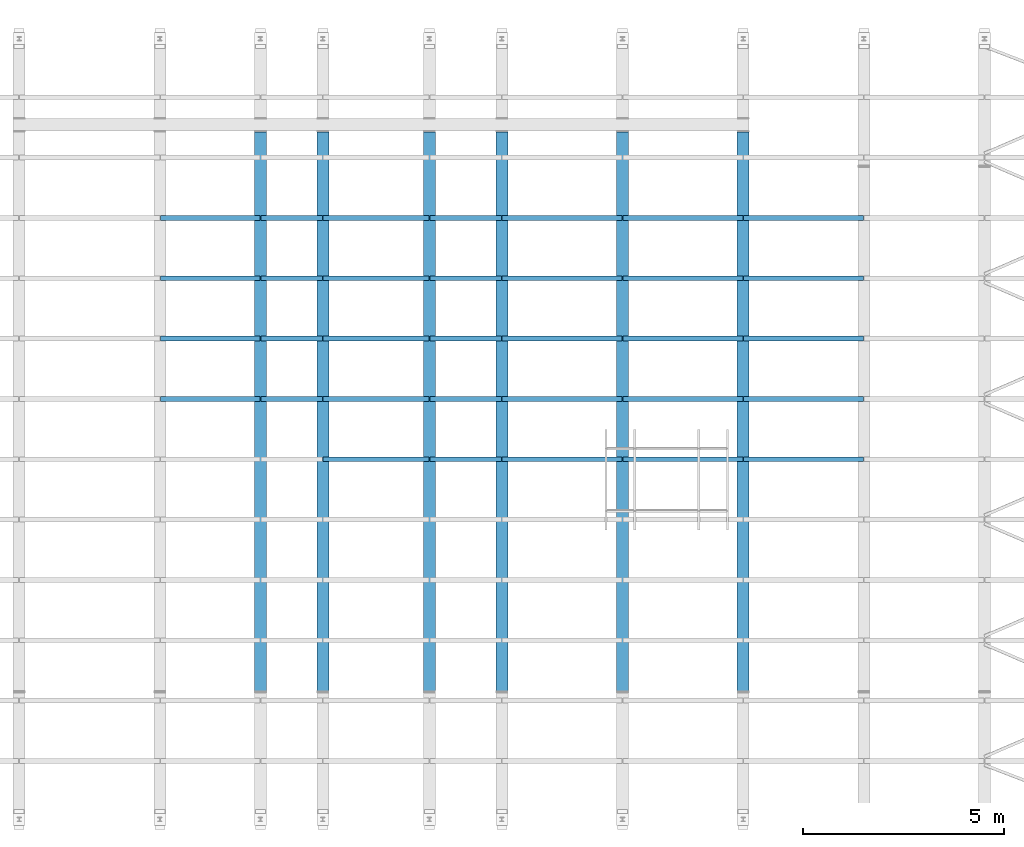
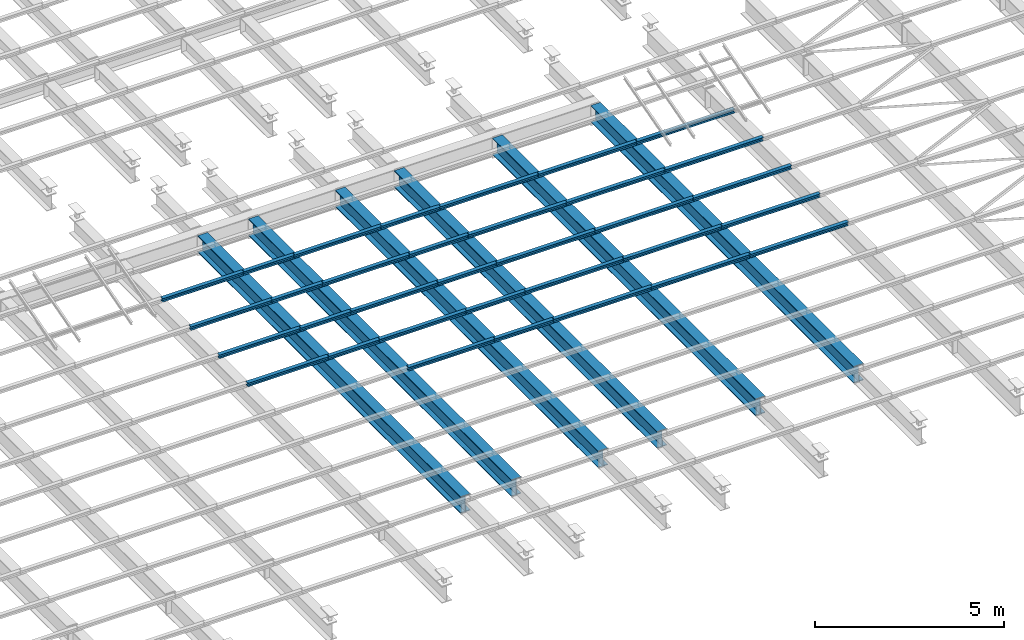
# One storey, part 39 of 139: 39 beams.
"""IFC2X3 building model written with IfcOpenShell, lengths in metres."""

from ifc_helpers import new_model, entity, si_unit, converted_unit, derived_unit, frame, origin, place, context, subcontext, project, spatial, polyline, outline, extrude, material, element, save


model = new_model("IFC2X3")

# Units and contexts
model_context = context("Model", 3, precision=1e-05, world=origin())
body_context = subcontext(model_context, "Body", "Model", "MODEL_VIEW")
ifc_project = project(units=[si_unit("LENGTHUNIT", "METRE"), si_unit("AREAUNIT", "SQUARE_METRE"), si_unit("VOLUMEUNIT", "CUBIC_METRE"), si_unit("MASSUNIT", "GRAM", prefix="KILO"), converted_unit("PLANEANGLEUNIT", "DEGREE", entity("IfcPlaneAngleMeasure", 0.0174532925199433), si_unit("PLANEANGLEUNIT", "RADIAN"), dimensions=[0, 0, 0, 0, 0, 0, 0]), derived_unit("THERMALTRANSMITTANCEUNIT", [(si_unit("POWERUNIT", "WATT"), 1), (si_unit("THERMODYNAMICTEMPERATUREUNIT", "KELVIN"), -1), (si_unit("LENGTHUNIT", "METRE"), -2)]), derived_unit("VOLUMETRICFLOWRATEUNIT", [(si_unit("LENGTHUNIT", "METRE"), 3), (converted_unit("TIMEUNIT", "hour", entity("IfcTimeMeasure", 3600.0), si_unit("TIMEUNIT", "SECOND"), dimensions=[0, 0, 1, 0, 0, 0, 0]), -1), (si_unit("LENGTHUNIT", "METRE"), -1)])], contexts=[model_context])

# Site, building, storey
site_placement = place(None, origin())
site = spatial("IfcSite", under=ifc_project, at=site_placement, Name="TWP_Speiseverteilzentrum SBW VZ II", CompositionType="ELEMENT")
building_placement = place(site_placement, origin())
building = spatial("IfcBuilding", under=site, at=building_placement, Name="Speiseverteilzentrum SBW VZ II", CompositionType="ELEMENT")
storey_placement = place(building_placement, frame((0.0, 0.0, 7.1307)))
storey = spatial("IfcBuildingStorey", under=building, at=storey_placement, Name="Wartung_FFB", CompositionType="ELEMENT", Elevation=7.1307)

# Beams
ifc_material_1 = material(Name="S235")
beam_1_placement = place(storey_placement, frame((28.0500000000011, 27.7849286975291, -0.46), z_axis=(0.0, 0.0, 1.0), x_axis=(-1.0, 0.0, 0.0)))
element("IfcBeam", 1, at=beam_1_placement, inside=storey, material=ifc_material_1, Name="Stahlträger", context=body_context, shape_type="SweptSolid", body=[
    extrude(outline(polyline([(-0.15, 0.27), (-0.15, 0.246), (-0.0062499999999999, 0.246), (-0.00624999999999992, -0.246), (-0.15, -0.246), (-0.15, -0.27), (0.15, -0.27), (0.15, -0.246), (0.00625000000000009, -0.246), (0.00625000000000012, 0.246), (0.15, 0.246), (0.15, 0.27), (-0.15, 0.27)])), frame((0.0, 0.0, 0.0), z_axis=(0.0, 1.0, 0.0), x_axis=(-1.0, 0.0, 0.0)), (0.0, 0.0, 1.0), 13.8968544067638),
])
ifc_material_2 = material(Name="S235")
beam_2_placement = place(storey_placement, frame((34.0500000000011, 27.7849286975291, -0.46), z_axis=(0.0, 0.0, 1.0), x_axis=(-1.0, 0.0, 0.0)))
element("IfcBeam", 2, at=beam_2_placement, inside=storey, material=ifc_material_2, Name="Stahlträger", context=body_context, shape_type="SweptSolid", body=[
    extrude(outline(polyline([(-0.15, 0.27), (-0.15, 0.246), (-0.0062499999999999, 0.246), (-0.00624999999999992, -0.246), (-0.15, -0.246), (-0.15, -0.27), (0.15, -0.27), (0.15, -0.246), (0.00625000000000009, -0.246), (0.00625000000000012, 0.246), (0.15, 0.246), (0.15, 0.27), (-0.15, 0.27)])), frame((0.0, 0.0, 0.0), z_axis=(0.0, 1.0, 0.0), x_axis=(-1.0, 0.0, 0.0)), (0.0, 0.0, 1.0), 13.8968544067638),
])
ifc_material_3 = material(Name="S235")
beam_3_placement = place(storey_placement, frame((32.2500000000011, 27.7849286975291, -0.46), z_axis=(0.0, 0.0, 1.0), x_axis=(-1.0, 0.0, 0.0)))
element("IfcBeam", 3, at=beam_3_placement, inside=storey, material=ifc_material_3, Name="Stahlträger", context=body_context, shape_type="SweptSolid", body=[
    extrude(outline(polyline([(-0.15, 0.27), (-0.15, 0.246), (-0.0062499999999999, 0.246), (-0.00624999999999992, -0.246), (-0.15, -0.246), (-0.15, -0.27), (0.15, -0.27), (0.15, -0.246), (0.00625000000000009, -0.246), (0.00625000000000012, 0.246), (0.15, 0.246), (0.15, 0.27), (-0.15, 0.27)])), frame((0.0, 0.0, 0.0), z_axis=(0.0, 1.0, 0.0), x_axis=(-1.0, 0.0, 0.0)), (0.0, 0.0, 1.0), 13.8968544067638),
])
ifc_material_4 = material(Name="S235")
beam_4_placement = place(storey_placement, frame((29.6000000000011, 27.7849286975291, -0.46), z_axis=(0.0, 0.0, 1.0), x_axis=(-1.0, 0.0, 0.0)))
element("IfcBeam", 4, at=beam_4_placement, inside=storey, material=ifc_material_4, Name="Stahlträger", context=body_context, shape_type="SweptSolid", body=[
    extrude(outline(polyline([(-0.15, 0.27), (-0.15, 0.246), (-0.0062499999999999, 0.246), (-0.00624999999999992, -0.246), (-0.15, -0.246), (-0.15, -0.27), (0.15, -0.27), (0.15, -0.246), (0.00625000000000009, -0.246), (0.00625000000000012, 0.246), (0.15, 0.246), (0.15, 0.27), (-0.15, 0.27)])), frame((0.0, 0.0, 0.0), z_axis=(0.0, 1.0, 0.0), x_axis=(-1.0, 0.0, 0.0)), (0.0, 0.0, 1.0), 13.8968544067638),
])
ifc_material_5 = material(Name="S235")
beam_5_placement = place(storey_placement, frame((37.0500000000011, 27.7849286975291, -0.46), z_axis=(0.0, 0.0, 1.0), x_axis=(-1.0, 0.0, 0.0)))
element("IfcBeam", 5, at=beam_5_placement, inside=storey, material=ifc_material_5, Name="Stahlträger", context=body_context, shape_type="SweptSolid", body=[
    extrude(outline(polyline([(-0.15, 0.27), (-0.15, 0.246), (-0.0062499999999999, 0.246), (-0.00624999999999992, -0.246), (-0.15, -0.246), (-0.15, -0.27), (0.15, -0.27), (0.15, -0.246), (0.00625000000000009, -0.246), (0.00625000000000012, 0.246), (0.15, 0.246), (0.15, 0.27), (-0.15, 0.27)])), frame((0.0, 0.0, 0.0), z_axis=(0.0, 1.0, 0.0), x_axis=(-1.0, 0.0, 0.0)), (0.0, 0.0, 1.0), 13.8968544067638),
])
ifc_material_6 = material(Name="S235")
beam_6_placement = place(storey_placement, frame((40.0500000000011, 27.7849286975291, -0.46), z_axis=(0.0, 0.0, 1.0), x_axis=(-1.0, 0.0, 0.0)))
element("IfcBeam", 6, at=beam_6_placement, inside=storey, material=ifc_material_6, Name="Stahlträger", context=body_context, shape_type="SweptSolid", body=[
    extrude(outline(polyline([(-0.15, 0.27), (-0.15, 0.246), (-0.0062499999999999, 0.246), (-0.00624999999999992, -0.246), (-0.15, -0.246), (-0.15, -0.27), (0.15, -0.27), (0.15, -0.246), (0.00625000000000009, -0.246), (0.00625000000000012, 0.246), (0.15, 0.246), (0.15, 0.27), (-0.15, 0.27)])), frame((0.0, 0.0, 0.0), z_axis=(0.0, 1.0, 0.0), x_axis=(-1.0, 0.0, 0.0)), (0.0, 0.0, 1.0), 13.8968544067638),
])
ifc_material_7 = material(Name="S235")
beam_7_placement = place(storey_placement, frame((34.0600000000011, 25.6450742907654, -0.133), z_axis=(0.0, 0.0, 1.0), x_axis=(0.0, -1.0, 0.0)))
element("IfcBeam", 7, at=beam_7_placement, inside=storey, material=ifc_material_7, Name="Nebenträger", context=body_context, shape_type="SweptSolid", body=[
    extrude(outline(polyline([(-0.06, 0.0570000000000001), (-0.06, 0.0490000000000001), (-0.00249999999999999, 0.0490000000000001), (-0.0025, -0.0489999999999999), (-0.06, -0.0489999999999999), (-0.06, -0.0569999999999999), (0.06, -0.0569999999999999), (0.06, -0.0489999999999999), (0.0025, -0.0489999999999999), (0.00250000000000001, 0.0490000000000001), (0.06, 0.0490000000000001), (0.06, 0.0570000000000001), (-0.06, 0.0570000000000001)])), frame((0.0, 0.0, 0.0), z_axis=(0.0, 1.0, 0.0), x_axis=(-1.0, 0.0, 0.0)), (0.0, 0.0, 1.0), 2.98),
])
ifc_material_8 = material(Name="S235")
beam_8_placement = place(storey_placement, frame((37.0600000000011, 25.6450742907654, -0.133), z_axis=(0.0, 0.0, 1.0), x_axis=(0.0, -1.0, 0.0)))
element("IfcBeam", 8, at=beam_8_placement, inside=storey, material=ifc_material_8, Name="Nebenträger", context=body_context, shape_type="SweptSolid", body=[
    extrude(outline(polyline([(-0.06, 0.0570000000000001), (-0.06, 0.0490000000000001), (-0.00249999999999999, 0.0490000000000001), (-0.0025, -0.0489999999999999), (-0.06, -0.0489999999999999), (-0.06, -0.0569999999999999), (0.06, -0.0569999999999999), (0.06, -0.0489999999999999), (0.0025, -0.0489999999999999), (0.00250000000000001, 0.0490000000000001), (0.06, 0.0490000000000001), (0.06, 0.0570000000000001), (-0.06, 0.0570000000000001)])), frame((0.0, 0.0, 0.0), z_axis=(0.0, 1.0, 0.0), x_axis=(-1.0, 0.0, 0.0)), (0.0, 0.0, 1.0), 2.98),
])
ifc_material_9 = material(Name="S235")
beam_9_placement = place(storey_placement, frame((40.0600000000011, 25.6450742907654, -0.133), z_axis=(0.0, 0.0, 1.0), x_axis=(0.0, -1.0, 0.0)))
element("IfcBeam", 9, at=beam_9_placement, inside=storey, material=ifc_material_9, Name="Nebenträger", context=body_context, shape_type="SweptSolid", body=[
    extrude(outline(polyline([(-0.06, 0.0570000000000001), (-0.06, 0.0490000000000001), (-0.00249999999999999, 0.0490000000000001), (-0.0025, -0.0489999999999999), (-0.06, -0.0489999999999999), (-0.06, -0.0569999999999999), (0.06, -0.0569999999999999), (0.06, -0.0489999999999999), (0.0025, -0.0489999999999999), (0.00250000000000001, 0.0490000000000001), (0.06, 0.0490000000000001), (0.06, 0.0570000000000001), (-0.06, 0.0570000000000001)])), frame((0.0, 0.0, 0.0), z_axis=(0.0, 1.0, 0.0), x_axis=(-1.0, 0.0, 0.0)), (0.0, 0.0, 1.0), 2.98),
])
ifc_material_10 = material(Name="S235")
beam_10_placement = place(storey_placement, frame((34.0600000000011, 24.1450742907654, -0.133), z_axis=(0.0, 0.0, 1.0), x_axis=(0.0, -1.0, 0.0)))
element("IfcBeam", 10, at=beam_10_placement, inside=storey, material=ifc_material_10, Name="Nebenträger", context=body_context, shape_type="SweptSolid", body=[
    extrude(outline(polyline([(-0.06, 0.0570000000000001), (-0.06, 0.0490000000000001), (-0.00249999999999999, 0.0490000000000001), (-0.0025, -0.0489999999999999), (-0.06, -0.0489999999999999), (-0.06, -0.0569999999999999), (0.06, -0.0569999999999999), (0.06, -0.0489999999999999), (0.0025, -0.0489999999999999), (0.00250000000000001, 0.0490000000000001), (0.06, 0.0490000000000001), (0.06, 0.0570000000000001), (-0.06, 0.0570000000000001)])), frame((0.0, 0.0, 0.0), z_axis=(0.0, 1.0, 0.0), x_axis=(-1.0, 0.0, 0.0)), (0.0, 0.0, 1.0), 2.98),
])
ifc_material_11 = material(Name="S235")
beam_11_placement = place(storey_placement, frame((37.0600000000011, 24.1450742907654, -0.133), z_axis=(0.0, 0.0, 1.0), x_axis=(0.0, -1.0, 0.0)))
element("IfcBeam", 11, at=beam_11_placement, inside=storey, material=ifc_material_11, Name="Nebenträger", context=body_context, shape_type="SweptSolid", body=[
    extrude(outline(polyline([(-0.06, 0.0570000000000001), (-0.06, 0.0490000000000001), (-0.00249999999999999, 0.0490000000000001), (-0.0025, -0.0489999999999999), (-0.06, -0.0489999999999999), (-0.06, -0.0569999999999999), (0.06, -0.0569999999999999), (0.06, -0.0489999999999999), (0.0025, -0.0489999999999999), (0.00250000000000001, 0.0490000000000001), (0.06, 0.0490000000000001), (0.06, 0.0570000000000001), (-0.06, 0.0570000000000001)])), frame((0.0, 0.0, 0.0), z_axis=(0.0, 1.0, 0.0), x_axis=(-1.0, 0.0, 0.0)), (0.0, 0.0, 1.0), 2.98),
])
ifc_material_12 = material(Name="S235")
beam_12_placement = place(storey_placement, frame((40.0600000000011, 24.1450742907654, -0.133), z_axis=(0.0, 0.0, 1.0), x_axis=(0.0, -1.0, 0.0)))
element("IfcBeam", 12, at=beam_12_placement, inside=storey, material=ifc_material_12, Name="Nebenträger", context=body_context, shape_type="SweptSolid", body=[
    extrude(outline(polyline([(-0.06, 0.0570000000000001), (-0.06, 0.0490000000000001), (-0.00249999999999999, 0.0490000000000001), (-0.0025, -0.0489999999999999), (-0.06, -0.0489999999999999), (-0.06, -0.0569999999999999), (0.06, -0.0569999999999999), (0.06, -0.0489999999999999), (0.0025, -0.0489999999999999), (0.00250000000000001, 0.0490000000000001), (0.06, 0.0490000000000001), (0.06, 0.0570000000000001), (-0.06, 0.0570000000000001)])), frame((0.0, 0.0, 0.0), z_axis=(0.0, 1.0, 0.0), x_axis=(-1.0, 0.0, 0.0)), (0.0, 0.0, 1.0), 2.98),
])
ifc_material_13 = material(Name="S235")
beam_13_placement = place(storey_placement, frame((34.0600000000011, 22.6450742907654, -0.133), z_axis=(0.0, 0.0, 1.0), x_axis=(0.0, -1.0, 0.0)))
element("IfcBeam", 13, at=beam_13_placement, inside=storey, material=ifc_material_13, Name="Nebenträger", context=body_context, shape_type="SweptSolid", body=[
    extrude(outline(polyline([(-0.06, 0.0570000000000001), (-0.06, 0.0490000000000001), (-0.00249999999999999, 0.0490000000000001), (-0.0025, -0.0489999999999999), (-0.06, -0.0489999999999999), (-0.06, -0.0569999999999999), (0.06, -0.0569999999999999), (0.06, -0.0489999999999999), (0.0025, -0.0489999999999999), (0.00250000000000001, 0.0490000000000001), (0.06, 0.0490000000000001), (0.06, 0.0570000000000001), (-0.06, 0.0570000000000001)])), frame((0.0, 0.0, 0.0), z_axis=(0.0, 1.0, 0.0), x_axis=(-1.0, 0.0, 0.0)), (0.0, 0.0, 1.0), 2.98),
])
ifc_material_14 = material(Name="S235")
beam_14_placement = place(storey_placement, frame((37.0600000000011, 22.6450742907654, -0.133), z_axis=(0.0, 0.0, 1.0), x_axis=(0.0, -1.0, 0.0)))
element("IfcBeam", 14, at=beam_14_placement, inside=storey, material=ifc_material_14, Name="Nebenträger", context=body_context, shape_type="SweptSolid", body=[
    extrude(outline(polyline([(-0.06, 0.0570000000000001), (-0.06, 0.0490000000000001), (-0.00249999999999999, 0.0490000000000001), (-0.0025, -0.0489999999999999), (-0.06, -0.0489999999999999), (-0.06, -0.0569999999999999), (0.06, -0.0569999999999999), (0.06, -0.0489999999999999), (0.0025, -0.0489999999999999), (0.00250000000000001, 0.0490000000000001), (0.06, 0.0490000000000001), (0.06, 0.0570000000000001), (-0.06, 0.0570000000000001)])), frame((0.0, 0.0, 0.0), z_axis=(0.0, 1.0, 0.0), x_axis=(-1.0, 0.0, 0.0)), (0.0, 0.0, 1.0), 2.98),
])
ifc_material_15 = material(Name="S235")
beam_15_placement = place(storey_placement, frame((40.0600000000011, 22.6450742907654, -0.133), z_axis=(0.0, 0.0, 1.0), x_axis=(0.0, -1.0, 0.0)))
element("IfcBeam", 15, at=beam_15_placement, inside=storey, material=ifc_material_15, Name="Nebenträger", context=body_context, shape_type="SweptSolid", body=[
    extrude(outline(polyline([(-0.06, 0.0570000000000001), (-0.06, 0.0490000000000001), (-0.00249999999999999, 0.0490000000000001), (-0.0025, -0.0489999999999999), (-0.06, -0.0489999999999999), (-0.06, -0.0569999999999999), (0.06, -0.0569999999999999), (0.06, -0.0489999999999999), (0.0025, -0.0489999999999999), (0.00250000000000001, 0.0490000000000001), (0.06, 0.0490000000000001), (0.06, 0.0570000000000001), (-0.06, 0.0570000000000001)])), frame((0.0, 0.0, 0.0), z_axis=(0.0, 1.0, 0.0), x_axis=(-1.0, 0.0, 0.0)), (0.0, 0.0, 1.0), 2.98),
])
ifc_material_16 = material(Name="S235")
beam_16_placement = place(storey_placement, frame((34.0600000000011, 21.1450742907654, -0.133), z_axis=(0.0, 0.0, 1.0), x_axis=(0.0, -1.0, 0.0)))
element("IfcBeam", 16, at=beam_16_placement, inside=storey, material=ifc_material_16, Name="Nebenträger", context=body_context, shape_type="SweptSolid", body=[
    extrude(outline(polyline([(-0.06, 0.0570000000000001), (-0.06, 0.0490000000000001), (-0.00249999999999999, 0.0490000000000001), (-0.0025, -0.0489999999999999), (-0.06, -0.0489999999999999), (-0.06, -0.0569999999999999), (0.06, -0.0569999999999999), (0.06, -0.0489999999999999), (0.0025, -0.0489999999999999), (0.00250000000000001, 0.0490000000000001), (0.06, 0.0490000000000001), (0.06, 0.0570000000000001), (-0.06, 0.0570000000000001)])), frame((0.0, 0.0, 0.0), z_axis=(0.0, 1.0, 0.0), x_axis=(-1.0, 0.0, 0.0)), (0.0, 0.0, 1.0), 2.98),
])
ifc_material_17 = material(Name="S235")
beam_17_placement = place(storey_placement, frame((37.0600000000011, 21.1450742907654, -0.133), z_axis=(0.0, 0.0, 1.0), x_axis=(0.0, -1.0, 0.0)))
element("IfcBeam", 17, at=beam_17_placement, inside=storey, material=ifc_material_17, Name="Nebenträger", context=body_context, shape_type="SweptSolid", body=[
    extrude(outline(polyline([(-0.06, 0.0570000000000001), (-0.06, 0.0490000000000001), (-0.00249999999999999, 0.0490000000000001), (-0.0025, -0.0489999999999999), (-0.06, -0.0489999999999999), (-0.06, -0.0569999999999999), (0.06, -0.0569999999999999), (0.06, -0.0489999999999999), (0.0025, -0.0489999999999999), (0.00250000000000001, 0.0490000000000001), (0.06, 0.0490000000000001), (0.06, 0.0570000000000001), (-0.06, 0.0570000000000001)])), frame((0.0, 0.0, 0.0), z_axis=(0.0, 1.0, 0.0), x_axis=(-1.0, 0.0, 0.0)), (0.0, 0.0, 1.0), 2.98),
])
ifc_material_18 = material(Name="S235")
beam_18_placement = place(storey_placement, frame((40.0600000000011, 21.1450742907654, -0.133), z_axis=(0.0, 0.0, 1.0), x_axis=(0.0, -1.0, 0.0)))
element("IfcBeam", 18, at=beam_18_placement, inside=storey, material=ifc_material_18, Name="Nebenträger", context=body_context, shape_type="SweptSolid", body=[
    extrude(outline(polyline([(-0.06, 0.0570000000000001), (-0.06, 0.0490000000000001), (-0.00249999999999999, 0.0490000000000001), (-0.0025, -0.0489999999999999), (-0.06, -0.0489999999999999), (-0.06, -0.0569999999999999), (0.06, -0.0569999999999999), (0.06, -0.0489999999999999), (0.0025, -0.0489999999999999), (0.00250000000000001, 0.0490000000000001), (0.06, 0.0490000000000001), (0.06, 0.0570000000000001), (-0.06, 0.0570000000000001)])), frame((0.0, 0.0, 0.0), z_axis=(0.0, 1.0, 0.0), x_axis=(-1.0, 0.0, 0.0)), (0.0, 0.0, 1.0), 2.98),
])
ifc_material_19 = material(Name="S235")
beam_19_placement = place(storey_placement, frame((34.0600000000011, 19.6450742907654, -0.133), z_axis=(0.0, 0.0, 1.0), x_axis=(0.0, -1.0, 0.0)))
element("IfcBeam", 19, at=beam_19_placement, inside=storey, material=ifc_material_19, Name="Nebenträger", context=body_context, shape_type="SweptSolid", body=[
    extrude(outline(polyline([(-0.06, 0.0570000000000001), (-0.06, 0.0490000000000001), (-0.00249999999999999, 0.0490000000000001), (-0.0025, -0.0489999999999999), (-0.06, -0.0489999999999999), (-0.06, -0.0569999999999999), (0.06, -0.0569999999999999), (0.06, -0.0489999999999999), (0.0025, -0.0489999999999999), (0.00250000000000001, 0.0490000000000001), (0.06, 0.0490000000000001), (0.06, 0.0570000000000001), (-0.06, 0.0570000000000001)])), frame((0.0, 0.0, 0.0), z_axis=(0.0, 1.0, 0.0), x_axis=(-1.0, 0.0, 0.0)), (0.0, 0.0, 1.0), 2.98),
])
ifc_material_20 = material(Name="S235")
beam_20_placement = place(storey_placement, frame((37.0600000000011, 19.6450742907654, -0.133), z_axis=(0.0, 0.0, 1.0), x_axis=(0.0, -1.0, 0.0)))
element("IfcBeam", 20, at=beam_20_placement, inside=storey, material=ifc_material_20, Name="Nebenträger", context=body_context, shape_type="SweptSolid", body=[
    extrude(outline(polyline([(-0.06, 0.0570000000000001), (-0.06, 0.0490000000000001), (-0.00249999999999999, 0.0490000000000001), (-0.0025, -0.0489999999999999), (-0.06, -0.0489999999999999), (-0.06, -0.0569999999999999), (0.06, -0.0569999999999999), (0.06, -0.0489999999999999), (0.0025, -0.0489999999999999), (0.00250000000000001, 0.0490000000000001), (0.06, 0.0490000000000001), (0.06, 0.0570000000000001), (-0.06, 0.0570000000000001)])), frame((0.0, 0.0, 0.0), z_axis=(0.0, 1.0, 0.0), x_axis=(-1.0, 0.0, 0.0)), (0.0, 0.0, 1.0), 2.98),
])
ifc_material_21 = material(Name="S235")
beam_21_placement = place(storey_placement, frame((40.0600000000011, 19.6450742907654, -0.133), z_axis=(0.0, 0.0, 1.0), x_axis=(0.0, -1.0, 0.0)))
element("IfcBeam", 21, at=beam_21_placement, inside=storey, material=ifc_material_21, Name="Nebenträger", context=body_context, shape_type="SweptSolid", body=[
    extrude(outline(polyline([(-0.06, 0.0570000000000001), (-0.06, 0.0490000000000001), (-0.00249999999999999, 0.0490000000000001), (-0.0025, -0.0489999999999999), (-0.06, -0.0489999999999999), (-0.06, -0.0569999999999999), (0.06, -0.0569999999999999), (0.06, -0.0489999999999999), (0.0025, -0.0489999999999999), (0.00250000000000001, 0.0490000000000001), (0.06, 0.0490000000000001), (0.06, 0.0570000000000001), (-0.06, 0.0570000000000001)])), frame((0.0, 0.0, 0.0), z_axis=(0.0, 1.0, 0.0), x_axis=(-1.0, 0.0, 0.0)), (0.0, 0.0, 1.0), 2.98),
])
ifc_material_22 = material(Name="S235")
beam_22_placement = place(storey_placement, frame((25.5662500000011, 25.6450742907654, -0.133), z_axis=(0.0, 0.0, 1.0), x_axis=(0.0, -1.0, 0.0)))
element("IfcBeam", 22, at=beam_22_placement, inside=storey, material=ifc_material_22, Name="Nebenträger", context=body_context, shape_type="SweptSolid", body=[
    extrude(outline(polyline([(-0.06, 0.0570000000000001), (-0.06, 0.0490000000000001), (-0.00249999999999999, 0.0490000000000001), (-0.0025, -0.0489999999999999), (-0.06, -0.0489999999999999), (-0.06, -0.0569999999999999), (0.06, -0.0569999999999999), (0.06, -0.0489999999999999), (0.0025, -0.0489999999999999), (0.00250000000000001, 0.0490000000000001), (0.06, 0.0490000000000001), (0.06, 0.0570000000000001), (-0.06, 0.0570000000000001)])), frame((0.0, 0.0, 0.0), z_axis=(0.0, 1.0, 0.0), x_axis=(-1.0, 0.0, 0.0)), (0.0, 0.0, 1.0), 2.47375),
])
ifc_material_23 = material(Name="S235")
beam_23_placement = place(storey_placement, frame((25.5662500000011, 24.1450742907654, -0.133), z_axis=(0.0, 0.0, 1.0), x_axis=(0.0, -1.0, 0.0)))
element("IfcBeam", 23, at=beam_23_placement, inside=storey, material=ifc_material_23, Name="Nebenträger", context=body_context, shape_type="SweptSolid", body=[
    extrude(outline(polyline([(-0.06, 0.0570000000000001), (-0.06, 0.0490000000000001), (-0.00249999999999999, 0.0490000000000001), (-0.0025, -0.0489999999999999), (-0.06, -0.0489999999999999), (-0.06, -0.0569999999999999), (0.06, -0.0569999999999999), (0.06, -0.0489999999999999), (0.0025, -0.0489999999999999), (0.00250000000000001, 0.0490000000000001), (0.06, 0.0490000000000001), (0.06, 0.0570000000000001), (-0.06, 0.0570000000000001)])), frame((0.0, 0.0, 0.0), z_axis=(0.0, 1.0, 0.0), x_axis=(-1.0, 0.0, 0.0)), (0.0, 0.0, 1.0), 2.47375),
])
ifc_material_24 = material(Name="S235")
beam_24_placement = place(storey_placement, frame((25.5662500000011, 22.6450742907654, -0.133), z_axis=(0.0, 0.0, 1.0), x_axis=(0.0, -1.0, 0.0)))
element("IfcBeam", 24, at=beam_24_placement, inside=storey, material=ifc_material_24, Name="Nebenträger", context=body_context, shape_type="SweptSolid", body=[
    extrude(outline(polyline([(-0.06, 0.0570000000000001), (-0.06, 0.0490000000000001), (-0.00249999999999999, 0.0490000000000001), (-0.0025, -0.0489999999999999), (-0.06, -0.0489999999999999), (-0.06, -0.0569999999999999), (0.06, -0.0569999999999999), (0.06, -0.0489999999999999), (0.0025, -0.0489999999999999), (0.00250000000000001, 0.0490000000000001), (0.06, 0.0490000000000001), (0.06, 0.0570000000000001), (-0.06, 0.0570000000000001)])), frame((0.0, 0.0, 0.0), z_axis=(0.0, 1.0, 0.0), x_axis=(-1.0, 0.0, 0.0)), (0.0, 0.0, 1.0), 2.47375),
])
ifc_material_25 = material(Name="S235")
beam_25_placement = place(storey_placement, frame((25.5662500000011, 21.1450742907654, -0.133), z_axis=(0.0, 0.0, 1.0), x_axis=(0.0, -1.0, 0.0)))
element("IfcBeam", 25, at=beam_25_placement, inside=storey, material=ifc_material_25, Name="Nebenträger", context=body_context, shape_type="SweptSolid", body=[
    extrude(outline(polyline([(-0.06, 0.0570000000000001), (-0.06, 0.0490000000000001), (-0.00249999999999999, 0.0490000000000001), (-0.0025, -0.0489999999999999), (-0.06, -0.0489999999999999), (-0.06, -0.0569999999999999), (0.06, -0.0569999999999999), (0.06, -0.0489999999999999), (0.0025, -0.0489999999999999), (0.00250000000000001, 0.0490000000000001), (0.06, 0.0490000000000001), (0.06, 0.0570000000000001), (-0.06, 0.0570000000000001)])), frame((0.0, 0.0, 0.0), z_axis=(0.0, 1.0, 0.0), x_axis=(-1.0, 0.0, 0.0)), (0.0, 0.0, 1.0), 2.47375),
])
ifc_material_26 = material(Name="S235")
beam_26_placement = place(storey_placement, frame((28.0600000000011, 25.6450742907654, -0.133), z_axis=(0.0, 0.0, 1.0), x_axis=(0.0, -1.0, 0.0)))
element("IfcBeam", 26, at=beam_26_placement, inside=storey, material=ifc_material_26, Name="Nebenträger", context=body_context, shape_type="SweptSolid", body=[
    extrude(outline(polyline([(-0.06, 0.0570000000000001), (-0.06, 0.0490000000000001), (-0.00249999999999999, 0.0490000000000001), (-0.0025, -0.0489999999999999), (-0.06, -0.0489999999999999), (-0.06, -0.0569999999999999), (0.06, -0.0569999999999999), (0.06, -0.0489999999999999), (0.0025, -0.0489999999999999), (0.00250000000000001, 0.0490000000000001), (0.06, 0.0490000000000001), (0.06, 0.0570000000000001), (-0.06, 0.0570000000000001)])), frame((0.0, 0.0, 0.0), z_axis=(0.0, 1.0, 0.0), x_axis=(-1.0, 0.0, 0.0)), (0.0, 0.0, 1.0), 1.52999999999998),
])
ifc_material_27 = material(Name="S235")
beam_27_placement = place(storey_placement, frame((28.0600000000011, 24.1450742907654, -0.133), z_axis=(0.0, 0.0, 1.0), x_axis=(0.0, -1.0, 0.0)))
element("IfcBeam", 27, at=beam_27_placement, inside=storey, material=ifc_material_27, Name="Nebenträger", context=body_context, shape_type="SweptSolid", body=[
    extrude(outline(polyline([(-0.06, 0.0570000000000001), (-0.06, 0.0490000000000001), (-0.00249999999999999, 0.0490000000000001), (-0.0025, -0.0489999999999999), (-0.06, -0.0489999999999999), (-0.06, -0.0569999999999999), (0.06, -0.0569999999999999), (0.06, -0.0489999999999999), (0.0025, -0.0489999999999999), (0.00250000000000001, 0.0490000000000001), (0.06, 0.0490000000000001), (0.06, 0.0570000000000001), (-0.06, 0.0570000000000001)])), frame((0.0, 0.0, 0.0), z_axis=(0.0, 1.0, 0.0), x_axis=(-1.0, 0.0, 0.0)), (0.0, 0.0, 1.0), 1.52999999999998),
])
ifc_material_28 = material(Name="S235")
beam_28_placement = place(storey_placement, frame((28.0600000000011, 22.6450742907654, -0.133), z_axis=(0.0, 0.0, 1.0), x_axis=(0.0, -1.0, 0.0)))
element("IfcBeam", 28, at=beam_28_placement, inside=storey, material=ifc_material_28, Name="Nebenträger", context=body_context, shape_type="SweptSolid", body=[
    extrude(outline(polyline([(-0.06, 0.0570000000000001), (-0.06, 0.0490000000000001), (-0.00249999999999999, 0.0490000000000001), (-0.0025, -0.0489999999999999), (-0.06, -0.0489999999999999), (-0.06, -0.0569999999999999), (0.06, -0.0569999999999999), (0.06, -0.0489999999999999), (0.0025, -0.0489999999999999), (0.00250000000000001, 0.0490000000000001), (0.06, 0.0490000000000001), (0.06, 0.0570000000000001), (-0.06, 0.0570000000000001)])), frame((0.0, 0.0, 0.0), z_axis=(0.0, 1.0, 0.0), x_axis=(-1.0, 0.0, 0.0)), (0.0, 0.0, 1.0), 1.52999999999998),
])
ifc_material_29 = material(Name="S235")
beam_29_placement = place(storey_placement, frame((28.0600000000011, 21.1450742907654, -0.133), z_axis=(0.0, 0.0, 1.0), x_axis=(0.0, -1.0, 0.0)))
element("IfcBeam", 29, at=beam_29_placement, inside=storey, material=ifc_material_29, Name="Nebenträger", context=body_context, shape_type="SweptSolid", body=[
    extrude(outline(polyline([(-0.06, 0.0570000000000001), (-0.06, 0.0490000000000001), (-0.00249999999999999, 0.0490000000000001), (-0.0025, -0.0489999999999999), (-0.06, -0.0489999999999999), (-0.06, -0.0569999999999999), (0.06, -0.0569999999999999), (0.06, -0.0489999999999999), (0.0025, -0.0489999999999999), (0.00250000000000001, 0.0490000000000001), (0.06, 0.0490000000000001), (0.06, 0.0570000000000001), (-0.06, 0.0570000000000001)])), frame((0.0, 0.0, 0.0), z_axis=(0.0, 1.0, 0.0), x_axis=(-1.0, 0.0, 0.0)), (0.0, 0.0, 1.0), 1.52999999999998),
])
ifc_material_30 = material(Name="S235")
beam_30_placement = place(storey_placement, frame((29.6100000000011, 25.6450742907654, -0.133), z_axis=(0.0, 0.0, 1.0), x_axis=(0.0, -1.0, 0.0)))
element("IfcBeam", 30, at=beam_30_placement, inside=storey, material=ifc_material_30, Name="Nebenträger", context=body_context, shape_type="SweptSolid", body=[
    extrude(outline(polyline([(-0.06, 0.0570000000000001), (-0.06, 0.0490000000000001), (-0.00249999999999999, 0.0490000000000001), (-0.0025, -0.0489999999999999), (-0.06, -0.0489999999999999), (-0.06, -0.0569999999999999), (0.06, -0.0569999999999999), (0.06, -0.0489999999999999), (0.0025, -0.0489999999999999), (0.00250000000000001, 0.0490000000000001), (0.06, 0.0490000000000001), (0.06, 0.0570000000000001), (-0.06, 0.0570000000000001)])), frame((0.0, 0.0, 0.0), z_axis=(0.0, 1.0, 0.0), x_axis=(-1.0, 0.0, 0.0)), (0.0, 0.0, 1.0), 2.63000000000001),
])
ifc_material_31 = material(Name="S235")
beam_31_placement = place(storey_placement, frame((29.6100000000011, 24.1450742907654, -0.133), z_axis=(0.0, 0.0, 1.0), x_axis=(0.0, -1.0, 0.0)))
element("IfcBeam", 31, at=beam_31_placement, inside=storey, material=ifc_material_31, Name="Nebenträger", context=body_context, shape_type="SweptSolid", body=[
    extrude(outline(polyline([(-0.06, 0.0570000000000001), (-0.06, 0.0490000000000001), (-0.00249999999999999, 0.0490000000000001), (-0.0025, -0.0489999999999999), (-0.06, -0.0489999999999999), (-0.06, -0.0569999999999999), (0.06, -0.0569999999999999), (0.06, -0.0489999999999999), (0.0025, -0.0489999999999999), (0.00250000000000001, 0.0490000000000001), (0.06, 0.0490000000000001), (0.06, 0.0570000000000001), (-0.06, 0.0570000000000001)])), frame((0.0, 0.0, 0.0), z_axis=(0.0, 1.0, 0.0), x_axis=(-1.0, 0.0, 0.0)), (0.0, 0.0, 1.0), 2.63000000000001),
])
ifc_material_32 = material(Name="S235")
beam_32_placement = place(storey_placement, frame((29.6100000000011, 22.6450742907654, -0.133), z_axis=(0.0, 0.0, 1.0), x_axis=(0.0, -1.0, 0.0)))
element("IfcBeam", 32, at=beam_32_placement, inside=storey, material=ifc_material_32, Name="Nebenträger", context=body_context, shape_type="SweptSolid", body=[
    extrude(outline(polyline([(-0.06, 0.0570000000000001), (-0.06, 0.0490000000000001), (-0.00249999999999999, 0.0490000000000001), (-0.0025, -0.0489999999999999), (-0.06, -0.0489999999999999), (-0.06, -0.0569999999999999), (0.06, -0.0569999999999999), (0.06, -0.0489999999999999), (0.0025, -0.0489999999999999), (0.00250000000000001, 0.0490000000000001), (0.06, 0.0490000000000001), (0.06, 0.0570000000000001), (-0.06, 0.0570000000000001)])), frame((0.0, 0.0, 0.0), z_axis=(0.0, 1.0, 0.0), x_axis=(-1.0, 0.0, 0.0)), (0.0, 0.0, 1.0), 2.63000000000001),
])
ifc_material_33 = material(Name="S235")
beam_33_placement = place(storey_placement, frame((29.6100000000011, 21.1450742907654, -0.133), z_axis=(0.0, 0.0, 1.0), x_axis=(0.0, -1.0, 0.0)))
element("IfcBeam", 33, at=beam_33_placement, inside=storey, material=ifc_material_33, Name="Nebenträger", context=body_context, shape_type="SweptSolid", body=[
    extrude(outline(polyline([(-0.06, 0.0570000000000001), (-0.06, 0.0490000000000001), (-0.00249999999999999, 0.0490000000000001), (-0.0025, -0.0489999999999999), (-0.06, -0.0489999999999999), (-0.06, -0.0569999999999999), (0.06, -0.0569999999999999), (0.06, -0.0489999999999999), (0.0025, -0.0489999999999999), (0.00250000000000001, 0.0490000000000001), (0.06, 0.0490000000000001), (0.06, 0.0570000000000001), (-0.06, 0.0570000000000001)])), frame((0.0, 0.0, 0.0), z_axis=(0.0, 1.0, 0.0), x_axis=(-1.0, 0.0, 0.0)), (0.0, 0.0, 1.0), 2.63000000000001),
])
ifc_material_34 = material(Name="S235")
beam_34_placement = place(storey_placement, frame((29.6100000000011, 19.6450742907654, -0.133), z_axis=(0.0, 0.0, 1.0), x_axis=(0.0, -1.0, 0.0)))
element("IfcBeam", 34, at=beam_34_placement, inside=storey, material=ifc_material_34, Name="Nebenträger", context=body_context, shape_type="SweptSolid", body=[
    extrude(outline(polyline([(-0.06, 0.0570000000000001), (-0.06, 0.0490000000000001), (-0.00249999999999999, 0.0490000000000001), (-0.0025, -0.0489999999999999), (-0.06, -0.0489999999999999), (-0.06, -0.0569999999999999), (0.06, -0.0569999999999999), (0.06, -0.0489999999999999), (0.0025, -0.0489999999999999), (0.00250000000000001, 0.0490000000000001), (0.06, 0.0490000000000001), (0.06, 0.0570000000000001), (-0.06, 0.0570000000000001)])), frame((0.0, 0.0, 0.0), z_axis=(0.0, 1.0, 0.0), x_axis=(-1.0, 0.0, 0.0)), (0.0, 0.0, 1.0), 2.63000000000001),
])
ifc_material_35 = material(Name="S235")
beam_35_placement = place(storey_placement, frame((32.2600000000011, 25.6450742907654, -0.133), z_axis=(0.0, 0.0, 1.0), x_axis=(0.0, -1.0, 0.0)))
element("IfcBeam", 35, at=beam_35_placement, inside=storey, material=ifc_material_35, Name="Nebenträger", context=body_context, shape_type="SweptSolid", body=[
    extrude(outline(polyline([(-0.06, 0.0570000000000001), (-0.06, 0.0490000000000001), (-0.00249999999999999, 0.0490000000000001), (-0.0025, -0.0489999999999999), (-0.06, -0.0489999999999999), (-0.06, -0.0569999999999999), (0.06, -0.0569999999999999), (0.06, -0.0489999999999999), (0.0025, -0.0489999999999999), (0.00250000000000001, 0.0490000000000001), (0.06, 0.0490000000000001), (0.06, 0.0570000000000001), (-0.06, 0.0570000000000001)])), frame((0.0, 0.0, 0.0), z_axis=(0.0, 1.0, 0.0), x_axis=(-1.0, 0.0, 0.0)), (0.0, 0.0, 1.0), 1.78000000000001),
])
ifc_material_36 = material(Name="S235")
beam_36_placement = place(storey_placement, frame((32.2600000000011, 24.1450742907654, -0.133), z_axis=(0.0, 0.0, 1.0), x_axis=(0.0, -1.0, 0.0)))
element("IfcBeam", 36, at=beam_36_placement, inside=storey, material=ifc_material_36, Name="Nebenträger", context=body_context, shape_type="SweptSolid", body=[
    extrude(outline(polyline([(-0.06, 0.0570000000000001), (-0.06, 0.0490000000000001), (-0.00249999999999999, 0.0490000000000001), (-0.0025, -0.0489999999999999), (-0.06, -0.0489999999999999), (-0.06, -0.0569999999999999), (0.06, -0.0569999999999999), (0.06, -0.0489999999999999), (0.0025, -0.0489999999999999), (0.00250000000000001, 0.0490000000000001), (0.06, 0.0490000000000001), (0.06, 0.0570000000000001), (-0.06, 0.0570000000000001)])), frame((0.0, 0.0, 0.0), z_axis=(0.0, 1.0, 0.0), x_axis=(-1.0, 0.0, 0.0)), (0.0, 0.0, 1.0), 1.78000000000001),
])
ifc_material_37 = material(Name="S235")
beam_37_placement = place(storey_placement, frame((32.2600000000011, 22.6450742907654, -0.133), z_axis=(0.0, 0.0, 1.0), x_axis=(0.0, -1.0, 0.0)))
element("IfcBeam", 37, at=beam_37_placement, inside=storey, material=ifc_material_37, Name="Nebenträger", context=body_context, shape_type="SweptSolid", body=[
    extrude(outline(polyline([(-0.06, 0.0570000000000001), (-0.06, 0.0490000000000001), (-0.00249999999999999, 0.0490000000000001), (-0.0025, -0.0489999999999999), (-0.06, -0.0489999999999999), (-0.06, -0.0569999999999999), (0.06, -0.0569999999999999), (0.06, -0.0489999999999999), (0.0025, -0.0489999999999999), (0.00250000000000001, 0.0490000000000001), (0.06, 0.0490000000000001), (0.06, 0.0570000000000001), (-0.06, 0.0570000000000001)])), frame((0.0, 0.0, 0.0), z_axis=(0.0, 1.0, 0.0), x_axis=(-1.0, 0.0, 0.0)), (0.0, 0.0, 1.0), 1.78000000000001),
])
ifc_material_38 = material(Name="S235")
beam_38_placement = place(storey_placement, frame((32.2600000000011, 21.1450742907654, -0.133), z_axis=(0.0, 0.0, 1.0), x_axis=(0.0, -1.0, 0.0)))
element("IfcBeam", 38, at=beam_38_placement, inside=storey, material=ifc_material_38, Name="Nebenträger", context=body_context, shape_type="SweptSolid", body=[
    extrude(outline(polyline([(-0.06, 0.0570000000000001), (-0.06, 0.0490000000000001), (-0.00249999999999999, 0.0490000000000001), (-0.0025, -0.0489999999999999), (-0.06, -0.0489999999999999), (-0.06, -0.0569999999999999), (0.06, -0.0569999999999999), (0.06, -0.0489999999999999), (0.0025, -0.0489999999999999), (0.00250000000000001, 0.0490000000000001), (0.06, 0.0490000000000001), (0.06, 0.0570000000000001), (-0.06, 0.0570000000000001)])), frame((0.0, 0.0, 0.0), z_axis=(0.0, 1.0, 0.0), x_axis=(-1.0, 0.0, 0.0)), (0.0, 0.0, 1.0), 1.78000000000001),
])
ifc_material_39 = material(Name="S235")
beam_39_placement = place(storey_placement, frame((32.2600000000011, 19.6450742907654, -0.133), z_axis=(0.0, 0.0, 1.0), x_axis=(0.0, -1.0, 0.0)))
element("IfcBeam", 39, at=beam_39_placement, inside=storey, material=ifc_material_39, Name="Nebenträger", context=body_context, shape_type="SweptSolid", body=[
    extrude(outline(polyline([(-0.06, 0.0570000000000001), (-0.06, 0.0490000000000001), (-0.00249999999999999, 0.0490000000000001), (-0.0025, -0.0489999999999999), (-0.06, -0.0489999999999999), (-0.06, -0.0569999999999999), (0.06, -0.0569999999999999), (0.06, -0.0489999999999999), (0.0025, -0.0489999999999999), (0.00250000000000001, 0.0490000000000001), (0.06, 0.0490000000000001), (0.06, 0.0570000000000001), (-0.06, 0.0570000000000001)])), frame((0.0, 0.0, 0.0), z_axis=(0.0, 1.0, 0.0), x_axis=(-1.0, 0.0, 0.0)), (0.0, 0.0, 1.0), 1.78000000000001),
])

save(model, "model.ifc")
